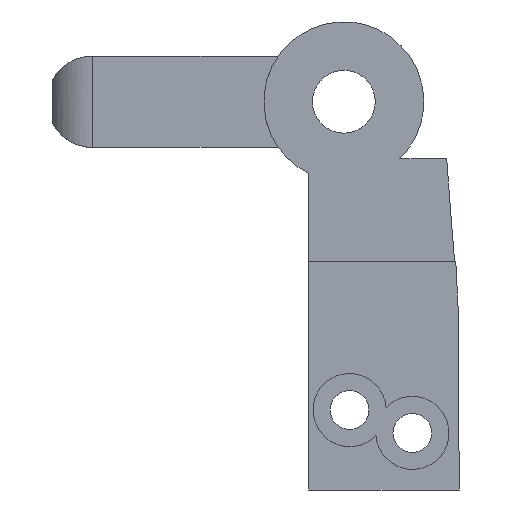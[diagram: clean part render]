
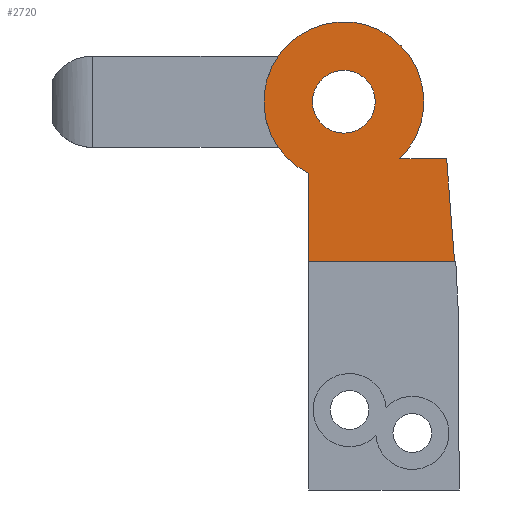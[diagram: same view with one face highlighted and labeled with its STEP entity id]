
A CAD part, front view. The second image highlights one B-rep face of the part: STEP entity #2720.
In plain terms, the highlighted planar face has unit normal (0, -1, 0).
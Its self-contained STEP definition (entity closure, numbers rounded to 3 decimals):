
#33 = CYLINDRICAL_SURFACE('',#34,7.);
#34 = AXIS2_PLACEMENT_3D('',#35,#36,#37);
#35 = CARTESIAN_POINT('',(0.,-7.,0.));
#36 = DIRECTION('',(0.,-1.,-0.));
#37 = DIRECTION('',(1.,0.,0.));
#62 = VERTEX_POINT('',#63);
#63 = CARTESIAN_POINT('',(4.899,-7.,-5.));
#76 = PLANE('',#77);
#77 = AXIS2_PLACEMENT_3D('',#78,#79,#80);
#78 = CARTESIAN_POINT('',(-3.074,-7.,-5.));
#79 = DIRECTION('',(0.,0.,-1.));
#80 = DIRECTION('',(1.,0.,0.));
#87 = EDGE_CURVE('',#88,#62,#90,.T.);
#88 = VERTEX_POINT('',#89);
#89 = CARTESIAN_POINT('',(-3.074,-7.,-6.289));
#90 = SURFACE_CURVE('',#91,(#96,#103),.PCURVE_S1.);
#91 = CIRCLE('',#92,7.);
#92 = AXIS2_PLACEMENT_3D('',#93,#94,#95);
#93 = CARTESIAN_POINT('',(0.,-7.,0.));
#94 = DIRECTION('',(0.,1.,0.));
#95 = DIRECTION('',(-0.439,0.,-0.898));
#96 = PCURVE('',#33,#97);
#97 = DEFINITIONAL_REPRESENTATION('',(#98),#102);
#98 = LINE('',#99,#100);
#99 = CARTESIAN_POINT('',(-2.025,0.));
#100 = VECTOR('',#101,1.);
#101 = DIRECTION('',(-1.,0.));
#102 = ( GEOMETRIC_REPRESENTATION_CONTEXT(2) 
PARAMETRIC_REPRESENTATION_CONTEXT() REPRESENTATION_CONTEXT('2D SPACE',''
  ) );
#103 = PCURVE('',#104,#109);
#104 = PLANE('',#105);
#105 = AXIS2_PLACEMENT_3D('',#106,#107,#108);
#106 = CARTESIAN_POINT('',(0.,-7.,0.));
#107 = DIRECTION('',(0.,1.,0.));
#108 = DIRECTION('',(0.,-0.,1.));
#109 = DEFINITIONAL_REPRESENTATION('',(#110),#114);
#110 = CIRCLE('',#111,7.);
#111 = AXIS2_PLACEMENT_2D('',#112,#113);
#112 = CARTESIAN_POINT('',(0.,0.));
#113 = DIRECTION('',(-0.898,-0.439));
#114 = ( GEOMETRIC_REPRESENTATION_CONTEXT(2) 
PARAMETRIC_REPRESENTATION_CONTEXT() REPRESENTATION_CONTEXT('2D SPACE',''
  ) );
#129 = PLANE('',#130);
#130 = AXIS2_PLACEMENT_3D('',#131,#132,#133);
#131 = CARTESIAN_POINT('',(-3.074,-7.,-18.));
#132 = DIRECTION('',(1.,0.,-0.));
#133 = DIRECTION('',(0.,0.,1.));
#1045 = EDGE_CURVE('',#1046,#88,#1048,.T.);
#1046 = VERTEX_POINT('',#1047);
#1047 = CARTESIAN_POINT('',(-3.074,-7.,-14.));
#1048 = SURFACE_CURVE('',#1049,(#1053,#1060),.PCURVE_S1.);
#1049 = LINE('',#1050,#1051);
#1050 = CARTESIAN_POINT('',(-3.074,-7.,-18.));
#1051 = VECTOR('',#1052,1.);
#1052 = DIRECTION('',(0.,0.,1.));
#1053 = PCURVE('',#129,#1054);
#1054 = DEFINITIONAL_REPRESENTATION('',(#1055),#1059);
#1055 = LINE('',#1056,#1057);
#1056 = CARTESIAN_POINT('',(0.,0.));
#1057 = VECTOR('',#1058,1.);
#1058 = DIRECTION('',(1.,0.));
#1059 = ( GEOMETRIC_REPRESENTATION_CONTEXT(2) 
PARAMETRIC_REPRESENTATION_CONTEXT() REPRESENTATION_CONTEXT('2D SPACE',''
  ) );
#1060 = PCURVE('',#104,#1061);
#1061 = DEFINITIONAL_REPRESENTATION('',(#1062),#1066);
#1062 = LINE('',#1063,#1064);
#1063 = CARTESIAN_POINT('',(-18.,-3.074));
#1064 = VECTOR('',#1065,1.);
#1065 = DIRECTION('',(1.,0.));
#1066 = ( GEOMETRIC_REPRESENTATION_CONTEXT(2) 
PARAMETRIC_REPRESENTATION_CONTEXT() REPRESENTATION_CONTEXT('2D SPACE',''
  ) );
#1084 = PLANE('',#1085);
#1085 = AXIS2_PLACEMENT_3D('',#1086,#1087,#1088);
#1086 = CARTESIAN_POINT('',(-3.074,-10.8,-14.));
#1087 = DIRECTION('',(0.,0.,-1.));
#1088 = DIRECTION('',(1.,0.,0.));
#2581 = EDGE_CURVE('',#2582,#1046,#2584,.T.);
#2582 = VERTEX_POINT('',#2583);
#2583 = CARTESIAN_POINT('',(9.692,-7.,-14.));
#2584 = SURFACE_CURVE('',#2585,(#2589,#2595),.PCURVE_S1.);
#2585 = LINE('',#2586,#2587);
#2586 = CARTESIAN_POINT('',(-1.537,-7.,-14.));
#2587 = VECTOR('',#2588,1.);
#2588 = DIRECTION('',(-1.,0.,0.));
#2589 = PCURVE('',#1084,#2590);
#2590 = DEFINITIONAL_REPRESENTATION('',(#2591),#2594);
#2591 = B_SPLINE_CURVE_WITH_KNOTS('',1,(#2592,#2593),.UNSPECIFIED.,.F.,
  .F.,(2,2),(-11.337,1.537),.PIECEWISE_BEZIER_KNOTS.);
#2592 = CARTESIAN_POINT('',(12.874,-3.8));
#2593 = CARTESIAN_POINT('',(0.,-3.8));
#2594 = ( GEOMETRIC_REPRESENTATION_CONTEXT(2) 
PARAMETRIC_REPRESENTATION_CONTEXT() REPRESENTATION_CONTEXT('2D SPACE',''
  ) );
#2595 = PCURVE('',#104,#2596);
#2596 = DEFINITIONAL_REPRESENTATION('',(#2597),#2600);
#2597 = B_SPLINE_CURVE_WITH_KNOTS('',1,(#2598,#2599),.UNSPECIFIED.,.F.,
  .F.,(2,2),(-11.337,1.537),.PIECEWISE_BEZIER_KNOTS.);
#2598 = CARTESIAN_POINT('',(-14.,9.8));
#2599 = CARTESIAN_POINT('',(-14.,-3.074));
#2600 = ( GEOMETRIC_REPRESENTATION_CONTEXT(2) 
PARAMETRIC_REPRESENTATION_CONTEXT() REPRESENTATION_CONTEXT('2D SPACE',''
  ) );
#2617 = PLANE('',#2618);
#2618 = AXIS2_PLACEMENT_3D('',#2619,#2620,#2621);
#2619 = CARTESIAN_POINT('',(9.,-7.,-5.));
#2620 = DIRECTION('',(-0.997,-0.,-0.077));
#2621 = DIRECTION('',(0.077,0.,-0.997));
#2653 = EDGE_CURVE('',#2654,#2582,#2656,.T.);
#2654 = VERTEX_POINT('',#2655);
#2655 = CARTESIAN_POINT('',(9.,-7.,-5.));
#2656 = SURFACE_CURVE('',#2657,(#2661,#2668),.PCURVE_S1.);
#2657 = LINE('',#2658,#2659);
#2658 = CARTESIAN_POINT('',(9.,-7.,-5.));
#2659 = VECTOR('',#2660,1.);
#2660 = DIRECTION('',(0.077,0.,-0.997));
#2661 = PCURVE('',#2617,#2662);
#2662 = DEFINITIONAL_REPRESENTATION('',(#2663),#2667);
#2663 = LINE('',#2664,#2665);
#2664 = CARTESIAN_POINT('',(0.,0.));
#2665 = VECTOR('',#2666,1.);
#2666 = DIRECTION('',(1.,0.));
#2667 = ( GEOMETRIC_REPRESENTATION_CONTEXT(2) 
PARAMETRIC_REPRESENTATION_CONTEXT() REPRESENTATION_CONTEXT('2D SPACE',''
  ) );
#2668 = PCURVE('',#104,#2669);
#2669 = DEFINITIONAL_REPRESENTATION('',(#2670),#2674);
#2670 = LINE('',#2671,#2672);
#2671 = CARTESIAN_POINT('',(-5.,9.));
#2672 = VECTOR('',#2673,1.);
#2673 = DIRECTION('',(-0.997,0.077));
#2674 = ( GEOMETRIC_REPRESENTATION_CONTEXT(2) 
PARAMETRIC_REPRESENTATION_CONTEXT() REPRESENTATION_CONTEXT('2D SPACE',''
  ) );
#2720 = ADVANCED_FACE('',(#2721,#2748),#104,.F.);
#2721 = FACE_BOUND('',#2722,.F.);
#2722 = EDGE_LOOP('',(#2723,#2724,#2725,#2746,#2747));
#2723 = ORIENTED_EDGE('',*,*,#1045,.T.);
#2724 = ORIENTED_EDGE('',*,*,#87,.T.);
#2725 = ORIENTED_EDGE('',*,*,#2726,.T.);
#2726 = EDGE_CURVE('',#62,#2654,#2727,.T.);
#2727 = SURFACE_CURVE('',#2728,(#2732,#2739),.PCURVE_S1.);
#2728 = LINE('',#2729,#2730);
#2729 = CARTESIAN_POINT('',(-3.074,-7.,-5.));
#2730 = VECTOR('',#2731,1.);
#2731 = DIRECTION('',(1.,0.,0.));
#2732 = PCURVE('',#104,#2733);
#2733 = DEFINITIONAL_REPRESENTATION('',(#2734),#2738);
#2734 = LINE('',#2735,#2736);
#2735 = CARTESIAN_POINT('',(-5.,-3.074));
#2736 = VECTOR('',#2737,1.);
#2737 = DIRECTION('',(0.,1.));
#2738 = ( GEOMETRIC_REPRESENTATION_CONTEXT(2) 
PARAMETRIC_REPRESENTATION_CONTEXT() REPRESENTATION_CONTEXT('2D SPACE',''
  ) );
#2739 = PCURVE('',#76,#2740);
#2740 = DEFINITIONAL_REPRESENTATION('',(#2741),#2745);
#2741 = LINE('',#2742,#2743);
#2742 = CARTESIAN_POINT('',(0.,0.));
#2743 = VECTOR('',#2744,1.);
#2744 = DIRECTION('',(1.,0.));
#2745 = ( GEOMETRIC_REPRESENTATION_CONTEXT(2) 
PARAMETRIC_REPRESENTATION_CONTEXT() REPRESENTATION_CONTEXT('2D SPACE',''
  ) );
#2746 = ORIENTED_EDGE('',*,*,#2653,.T.);
#2747 = ORIENTED_EDGE('',*,*,#2581,.T.);
#2748 = FACE_BOUND('',#2749,.F.);
#2749 = EDGE_LOOP('',(#2750));
#2750 = ORIENTED_EDGE('',*,*,#2751,.T.);
#2751 = EDGE_CURVE('',#2752,#2752,#2754,.T.);
#2752 = VERTEX_POINT('',#2753);
#2753 = CARTESIAN_POINT('',(2.75,-7.,0.));
#2754 = SURFACE_CURVE('',#2755,(#2760,#2771),.PCURVE_S1.);
#2755 = CIRCLE('',#2756,2.75);
#2756 = AXIS2_PLACEMENT_3D('',#2757,#2758,#2759);
#2757 = CARTESIAN_POINT('',(0.,-7.,0.));
#2758 = DIRECTION('',(0.,-1.,-0.));
#2759 = DIRECTION('',(1.,0.,0.));
#2760 = PCURVE('',#104,#2761);
#2761 = DEFINITIONAL_REPRESENTATION('',(#2762),#2770);
#2762 = ( BOUNDED_CURVE() B_SPLINE_CURVE(2,(#2763,#2764,#2765,#2766,
#2767,#2768,#2769),.UNSPECIFIED.,.T.,.F.) B_SPLINE_CURVE_WITH_KNOTS((1,2
    ,2,2,2,1),(-2.094,0.,2.094,4.189,
6.283,8.378),.UNSPECIFIED.) CURVE() 
GEOMETRIC_REPRESENTATION_ITEM() RATIONAL_B_SPLINE_CURVE((1.,0.5,1.,0.5,
1.,0.5,1.)) REPRESENTATION_ITEM('') );
#2763 = CARTESIAN_POINT('',(0.,2.75));
#2764 = CARTESIAN_POINT('',(4.763,2.75));
#2765 = CARTESIAN_POINT('',(2.382,-1.375));
#2766 = CARTESIAN_POINT('',(0.,-5.5));
#2767 = CARTESIAN_POINT('',(-2.382,-1.375));
#2768 = CARTESIAN_POINT('',(-4.763,2.75));
#2769 = CARTESIAN_POINT('',(0.,2.75));
#2770 = ( GEOMETRIC_REPRESENTATION_CONTEXT(2) 
PARAMETRIC_REPRESENTATION_CONTEXT() REPRESENTATION_CONTEXT('2D SPACE',''
  ) );
#2771 = PCURVE('',#2772,#2777);
#2772 = CYLINDRICAL_SURFACE('',#2773,2.75);
#2773 = AXIS2_PLACEMENT_3D('',#2774,#2775,#2776);
#2774 = CARTESIAN_POINT('',(0.,-10.,0.));
#2775 = DIRECTION('',(0.,-1.,-0.));
#2776 = DIRECTION('',(1.,0.,0.));
#2777 = DEFINITIONAL_REPRESENTATION('',(#2778),#2782);
#2778 = LINE('',#2779,#2780);
#2779 = CARTESIAN_POINT('',(-6.283,-3.));
#2780 = VECTOR('',#2781,1.);
#2781 = DIRECTION('',(1.,-0.));
#2782 = ( GEOMETRIC_REPRESENTATION_CONTEXT(2) 
PARAMETRIC_REPRESENTATION_CONTEXT() REPRESENTATION_CONTEXT('2D SPACE',''
  ) );
